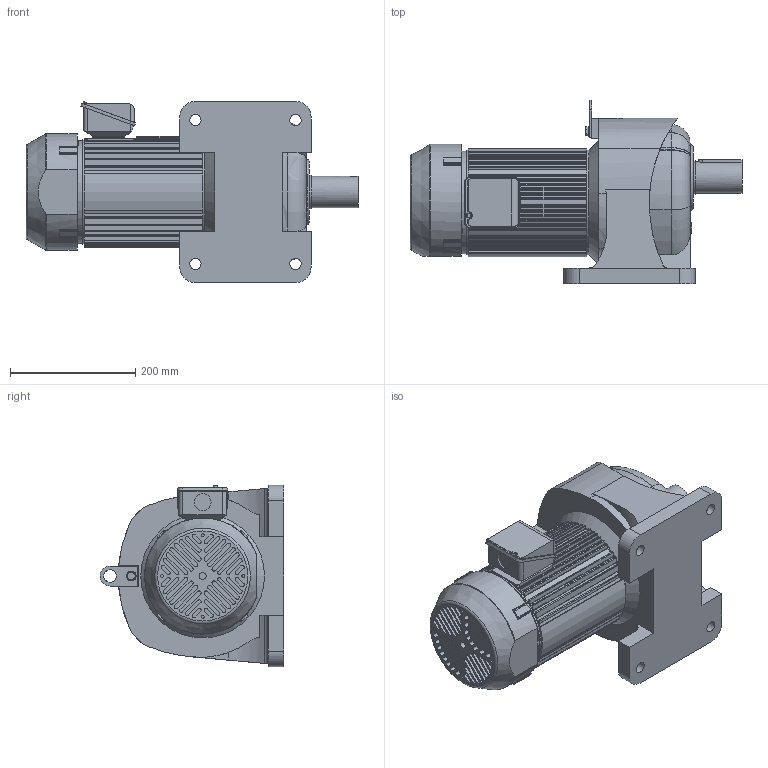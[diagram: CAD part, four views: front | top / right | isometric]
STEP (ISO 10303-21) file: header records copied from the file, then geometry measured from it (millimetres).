
FILE_DESCRIPTION( ( 'STEP AP203' ), ' ' );
FILE_NAME( 'p:/temp/worker_44/3644_3424/app_76_12017032209241786427239260eae72_000000_00_00_000000/format_0/G3L50N30N-IPB220NT.stp', '2017-03-22T08:24:19', ( '' ), ( '' ), ' ', 'PARTsolutions', ' ' );
FILE_SCHEMA( ( 'CONFIG_CONTROL_DESIGN' ) );
Length unit declared in the file: millimetre
Products named in the file (9): G3L50N30N-IPB220NT; _GL50; _SP050; HI_T220; HI_1522B; _Brake lead wire; _T-BOX010; _KEY 50; _50-11.5-hook
Assembly tree (8 placements, depth 2):
  G3L50N30N-IPB220NT
    _GL50
    _SP050
    HI_T220
    HI_1522B
    _Brake lead wire
    _T-BOX010
    _KEY 50
    _50-11.5-hook
Bounding box: 531 x 294 x 290.02 mm (x, y, z)
Volume: 16374976.8 mm3; surface area: 770160.8 mm2
Topology: 8 solids, 8 shells, 820 faces, 2219 edges, 1470 vertices
Faces by surface type: cylinder 418, plane 375, torus 15, cone 8, bspline 4
Full cylindrical faces by diameter (mm): 2 x4, 4.8 x4, 6.4 x1, 11 x1, 15.4 x1, 18 x4, 20 x1, 27 x1, 50 x1, 53 x1, 164 x1, 167 x2
Entity records: 27080 total; most frequent: CARTESIAN_POINT 5675, DIRECTION 4579, ORIENTED_EDGE 4356, EDGE_CURVE 2178, AXIS2_PLACEMENT_3D 1672, VERTEX_POINT 1459, LINE 1235, VECTOR 1235
